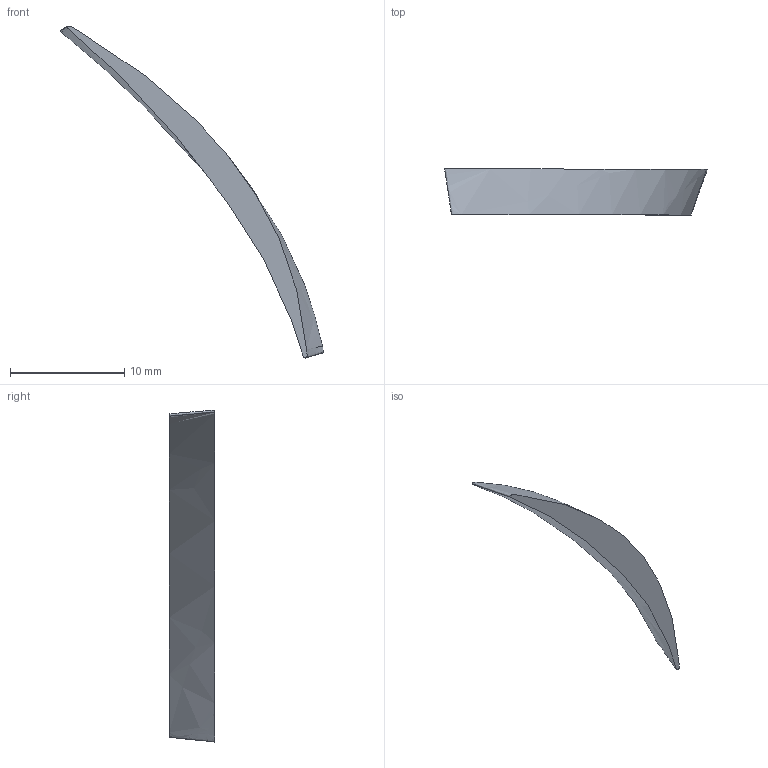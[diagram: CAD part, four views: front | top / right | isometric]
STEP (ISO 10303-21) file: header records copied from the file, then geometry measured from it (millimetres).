
FILE_DESCRIPTION (( 'STEP AP203' ), '1' );
FILE_NAME ('test001.STEP', '2025-08-21T02:51:22', ( '' ), ( '' ), 'SwSTEP 2.0', 'SolidWorks 2021', '' );
FILE_SCHEMA (( 'CONFIG_CONTROL_DESIGN' ));
Length unit declared in the file: millimetre
Products named in the file (1): test001
Bounding box: 22.97 x 4 x 29.03 mm (x, y, z)
Volume: 241.2 mm3; surface area: 421.3 mm2
Topology: 1 solids, 1 shells, 4 faces, 6 edges, 4 vertices
Faces by surface type: bspline 2, plane 2
Entity records: 2848 total; most frequent: CARTESIAN_POINT 2714, ORIENTED_EDGE 12, PERSON_AND_ORGANIZATION 8, EDGE_CURVE 6, DIRECTION 6, B_SPLINE_CURVE_WITH_KNOTS 6, CC_DESIGN_PERSON_AND_ORGANIZATION_ASSIGNMENT 5, DATE_AND_TIME 5
